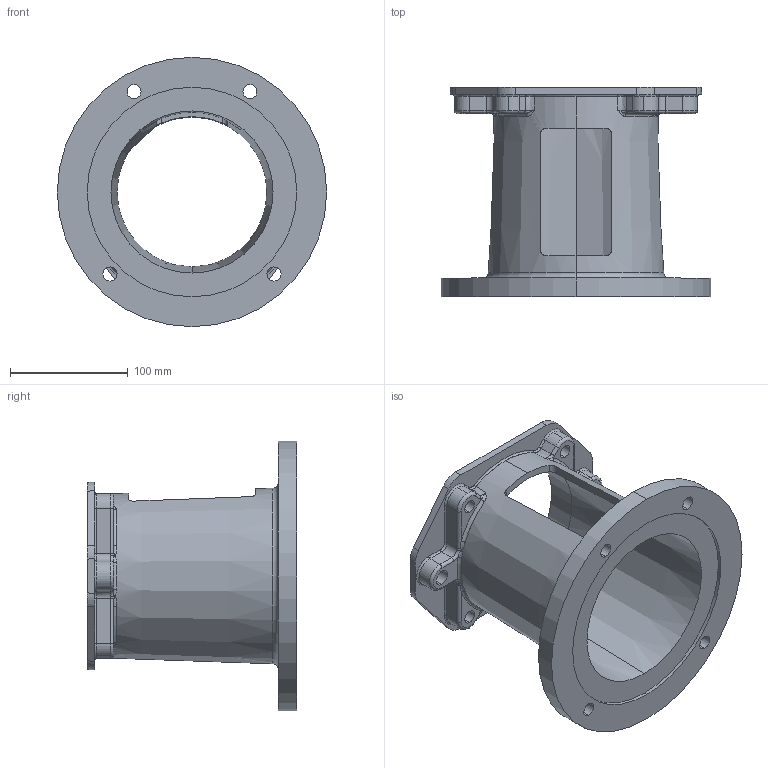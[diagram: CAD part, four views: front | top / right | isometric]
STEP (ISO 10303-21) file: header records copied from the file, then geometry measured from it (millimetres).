
FILE_DESCRIPTION (( 'STEP AP203' ), '1' );
FILE_NAME ('E700702C.STEP', '2014-11-04T13:23:15', ( '' ), ( '' ), 'SwSTEP 2.0', 'SolidWorks 2014', '' );
FILE_SCHEMA (( 'CONFIG_CONTROL_DESIGN' ));
Length unit declared in the file: inch
Products named in the file (1): E700702C
Bounding box: 228.6 x 177.8 x 228.6 mm (x, y, z)
Volume: 922781.6 mm3; surface area: 233801.8 mm2
Topology: 1 solids, 1 shells, 197 faces, 500 edges, 302 vertices
Faces by surface type: cylinder 74, torus 48, bspline 36, plane 35, cone 4
Entity records: 7345 total; most frequent: CARTESIAN_POINT 2646, ORIENTED_EDGE 992, DIRECTION 982, EDGE_CURVE 496, AXIS2_PLACEMENT_3D 420, VERTEX_POINT 302, CIRCLE 258, EDGE_LOOP 222
